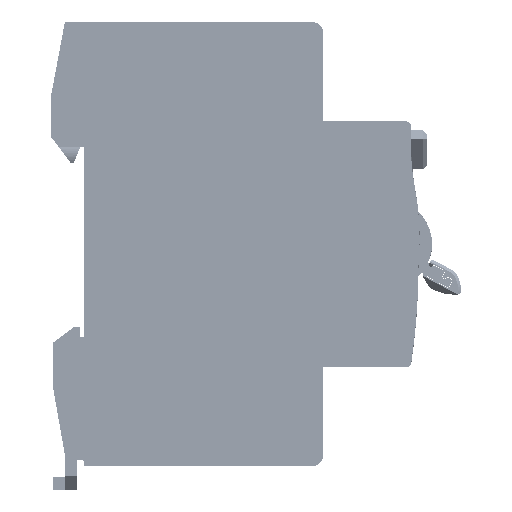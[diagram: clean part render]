
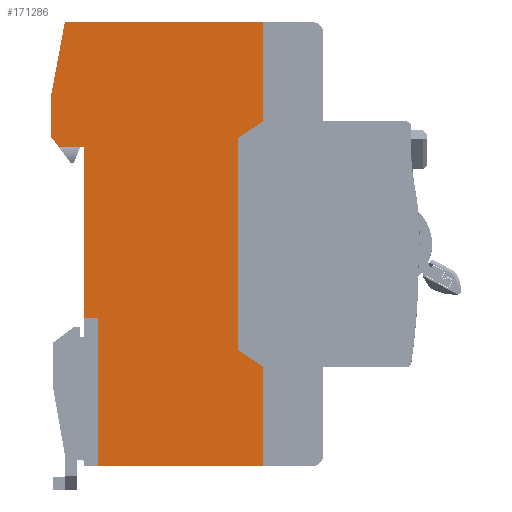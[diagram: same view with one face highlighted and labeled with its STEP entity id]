
A CAD part, front view. The second image highlights one B-rep face of the part: STEP entity #171286.
In plain terms, the highlighted planar face has unit normal (0, -1, 0).
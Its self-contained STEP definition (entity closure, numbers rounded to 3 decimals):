
#2629 = DIRECTION ( 'NONE',  ( 0., 0., 1. ) ) ;
#5162 = EDGE_CURVE ( 'NONE', #143168, #30092, #11968, .T. ) ;
#9931 = CARTESIAN_POINT ( 'NONE',  ( 30.35, 0., 72.142 ) ) ;
#11968 = B_SPLINE_CURVE_WITH_KNOTS ( 'NONE', 3,
 ( #227762, #152024, #31570, #232678 ),
 .UNSPECIFIED., .F., .F.,
 ( 4, 4 ),
 ( 0., 1. ),
 .UNSPECIFIED. ) ;
#12440 = LINE ( 'NONE', #86503, #83152 ) ;
#13041 = CARTESIAN_POINT ( 'NONE',  ( -2.5, 0., 27.25 ) ) ;
#14243 = EDGE_CURVE ( 'NONE', #158311, #143168, #12440, .T. ) ;
#21644 = VECTOR ( 'NONE', #116588, 1000. ) ;
#21744 = CARTESIAN_POINT ( 'NONE',  ( -5.995, 0., 81.5 ) ) ;
#23715 = B_SPLINE_CURVE_WITH_KNOTS ( 'NONE', 3,
 ( #113233, #291255, #122979, #121347 ),
 .UNSPECIFIED., .F., .F.,
 ( 4, 4 ),
 ( 0., 1. ),
 .UNSPECIFIED. ) ;
#23992 = CARTESIAN_POINT ( 'NONE',  ( -8.5, 0., 0. ) ) ;
#25058 = ORIENTED_EDGE ( 'NONE', *, *, #272704, .T. ) ;
#30092 = VERTEX_POINT ( 'NONE', #87287 ) ;
#30523 = CARTESIAN_POINT ( 'NONE',  ( -8.5, 0., 64.25 ) ) ;
#31570 = CARTESIAN_POINT ( 'NONE',  ( -8.038, 0., 59.767 ) ) ;
#34922 = ORIENTED_EDGE ( 'NONE', *, *, #14243, .F. ) ;
#37473 = DIRECTION ( 'NONE',  ( 0., 0., 1. ) ) ;
#37573 = ORIENTED_EDGE ( 'NONE', *, *, #112544, .F. ) ;
#41920 = ORIENTED_EDGE ( 'NONE', *, *, #211154, .T. ) ;
#47431 = ORIENTED_EDGE ( 'NONE', *, *, #127308, .F. ) ;
#50522 = CARTESIAN_POINT ( 'NONE',  ( 25.85, 0., 40.75 ) ) ;
#62008 = DIRECTION ( 'NONE',  ( 1., 0., 0. ) ) ;
#71009 = VERTEX_POINT ( 'NONE', #170203 ) ;
#71377 = ORIENTED_EDGE ( 'NONE', *, *, #5162, .F. ) ;
#71756 = PLANE ( 'NONE',  #183511 ) ;
#72889 = VERTEX_POINT ( 'NONE', #109918 ) ;
#80354 = VERTEX_POINT ( 'NONE', #264672 ) ;
#80748 = ORIENTED_EDGE ( 'NONE', *, *, #280747, .F. ) ;
#83152 = VECTOR ( 'NONE', #164100, 1000. ) ;
#84630 = CARTESIAN_POINT ( 'NONE',  ( 0., 0., 40.75 ) ) ;
#84823 = LINE ( 'NONE', #30523, #96394 ) ;
#86503 = CARTESIAN_POINT ( 'NONE',  ( -4.807, 0., 58.55 ) ) ;
#87287 = CARTESIAN_POINT ( 'NONE',  ( -8.5, 0., 60.375 ) ) ;
#89877 = B_SPLINE_CURVE_WITH_KNOTS ( 'NONE', 3,
 ( #323416, #247485, #298678, #21744 ),
 .UNSPECIFIED., .F., .F.,
 ( 4, 4 ),
 ( 0., 1. ),
 .UNSPECIFIED. ) ;
#96394 = VECTOR ( 'NONE', #2629, 1000. ) ;
#99759 = DIRECTION ( 'NONE',  ( 0., -1., 0. ) ) ;
#101684 = CARTESIAN_POINT ( 'NONE',  ( -8.5, 0., 68.125 ) ) ;
#104020 = CARTESIAN_POINT ( 'NONE',  ( 30.35, 0., 63.25 ) ) ;
#105008 = CARTESIAN_POINT ( 'NONE',  ( 12.177, 0., 81.5 ) ) ;
#109918 = CARTESIAN_POINT ( 'NONE',  ( 30.35, 0., 0. ) ) ;
#112544 = EDGE_CURVE ( 'NONE', #153382, #158311, #156323, .T. ) ;
#112852 = VECTOR ( 'NONE', #37473, 1000. ) ;
#112987 = EDGE_CURVE ( 'NONE', #224099, #182681, #89877, .T. ) ;
#113233 = CARTESIAN_POINT ( 'NONE',  ( 30.35, 0., 18.25 ) ) ;
#116588 = DIRECTION ( 'NONE',  ( 1., 0., 0. ) ) ;
#119539 = CARTESIAN_POINT ( 'NONE',  ( 30.35, 0., 81.5 ) ) ;
#121347 = CARTESIAN_POINT ( 'NONE',  ( 25.85, 0., 21.25 ) ) ;
#122979 = CARTESIAN_POINT ( 'NONE',  ( 27.35, 0., 20.25 ) ) ;
#127308 = EDGE_CURVE ( 'NONE', #144518, #325878, #260355, .T. ) ;
#135256 = CARTESIAN_POINT ( 'NONE',  ( -7.113, 0., 58.55 ) ) ;
#135662 = CARTESIAN_POINT ( 'NONE',  ( 13.925, 0., 0. ) ) ;
#143003 = LINE ( 'NONE', #241864, #21644 ) ;
#143168 = VERTEX_POINT ( 'NONE', #135256 ) ;
#143973 = CARTESIAN_POINT ( 'NONE',  ( 0., 0., 0. ) ) ;
#144518 = VERTEX_POINT ( 'NONE', #119539 ) ;
#146007 = VERTEX_POINT ( 'NONE', #264195 ) ;
#147718 = DIRECTION ( 'NONE',  ( 1., 0., 0. ) ) ;
#152024 = CARTESIAN_POINT ( 'NONE',  ( -7.575, 0., 59.158 ) ) ;
#152633 = B_SPLINE_CURVE_WITH_KNOTS ( 'NONE', 3,
 ( #159992, #235713, #234092, #229183 ),
 .UNSPECIFIED., .F., .F.,
 ( 4, 4 ),
 ( 0., 1. ),
 .UNSPECIFIED. ) ;
#153382 = VERTEX_POINT ( 'NONE', #13041 ) ;
#154349 = VECTOR ( 'NONE', #234604, 1000. ) ;
#156323 = LINE ( 'NONE', #162861, #112852 ) ;
#158311 = VERTEX_POINT ( 'NONE', #314920 ) ;
#159992 = CARTESIAN_POINT ( 'NONE',  ( 25.85, 0., 60.25 ) ) ;
#162861 = CARTESIAN_POINT ( 'NONE',  ( -2.5, 0., 29.275 ) ) ;
#164100 = DIRECTION ( 'NONE',  ( -1., 0., 0. ) ) ;
#169280 = EDGE_CURVE ( 'NONE', #80354, #322364, #261000, .T. ) ;
#170203 = CARTESIAN_POINT ( 'NONE',  ( 25.85, 0., 60.25 ) ) ;
#171286 = ADVANCED_FACE ( 'NONE', ( #296088 ), #71756, .T. ) ;
#175917 = LINE ( 'NONE', #50522, #286976 ) ;
#182037 = DIRECTION ( 'NONE',  ( 0., 0., -1. ) ) ;
#182492 = DIRECTION ( 'NONE',  ( 0., 0., -1. ) ) ;
#182681 = VERTEX_POINT ( 'NONE', #272809 ) ;
#183511 = AXIS2_PLACEMENT_3D ( 'NONE', #23992, #99759, #147718 ) ;
#184111 = LINE ( 'NONE', #263100, #209576 ) ;
#184666 = ORIENTED_EDGE ( 'NONE', *, *, #278626, .T. ) ;
#187865 = ORIENTED_EDGE ( 'NONE', *, *, #215246, .F. ) ;
#204141 = CARTESIAN_POINT ( 'NONE',  ( 30.35, 0., 18.25 ) ) ;
#209576 = VECTOR ( 'NONE', #182492, 1000. ) ;
#211154 = EDGE_CURVE ( 'NONE', #71009, #325878, #152633, .T. ) ;
#212040 = LINE ( 'NONE', #105008, #318527 ) ;
#215246 = EDGE_CURVE ( 'NONE', #182681, #144518, #212040, .T. ) ;
#220103 = EDGE_CURVE ( 'NONE', #312486, #146007, #23715, .T. ) ;
#221835 = ORIENTED_EDGE ( 'NONE', *, *, #220103, .T. ) ;
#224099 = VERTEX_POINT ( 'NONE', #101684 ) ;
#227762 = CARTESIAN_POINT ( 'NONE',  ( -7.113, 0., 58.55 ) ) ;
#229183 = CARTESIAN_POINT ( 'NONE',  ( 30.35, 0., 63.25 ) ) ;
#232678 = CARTESIAN_POINT ( 'NONE',  ( -8.5, 0., 60.375 ) ) ;
#234092 = CARTESIAN_POINT ( 'NONE',  ( 28.85, 0., 62.25 ) ) ;
#234604 = DIRECTION ( 'NONE',  ( -1., 0., 0. ) ) ;
#235713 = CARTESIAN_POINT ( 'NONE',  ( 27.35, 0., 61.25 ) ) ;
#237859 = LINE ( 'NONE', #135662, #154349 ) ;
#241864 = CARTESIAN_POINT ( 'NONE',  ( 10.925, 0., 27.25 ) ) ;
#244145 = ORIENTED_EDGE ( 'NONE', *, *, #263289, .F. ) ;
#247485 = CARTESIAN_POINT ( 'NONE',  ( -7.665, 0., 72.583 ) ) ;
#260355 = LINE ( 'NONE', #9931, #272255 ) ;
#261000 = LINE ( 'NONE', #84630, #298113 ) ;
#263100 = CARTESIAN_POINT ( 'NONE',  ( 30.35, 0., 9.358 ) ) ;
#263289 = EDGE_CURVE ( 'NONE', #312486, #72889, #184111, .T. ) ;
#264195 = CARTESIAN_POINT ( 'NONE',  ( 25.85, 0., 21.25 ) ) ;
#264672 = CARTESIAN_POINT ( 'NONE',  ( 0., 0., 27.25 ) ) ;
#264922 = EDGE_LOOP ( 'NONE', ( #41920, #47431, #187865, #294900, #304166, #71377, #34922, #37573, #184666, #281111, #80748, #244145, #221835, #25058 ) ) ;
#272255 = VECTOR ( 'NONE', #314777, 1000. ) ;
#272704 = EDGE_CURVE ( 'NONE', #146007, #71009, #175917, .T. ) ;
#272809 = CARTESIAN_POINT ( 'NONE',  ( -5.995, 0., 81.5 ) ) ;
#278626 = EDGE_CURVE ( 'NONE', #153382, #80354, #143003, .T. ) ;
#280747 = EDGE_CURVE ( 'NONE', #72889, #322364, #237859, .T. ) ;
#281111 = ORIENTED_EDGE ( 'NONE', *, *, #169280, .T. ) ;
#286976 = VECTOR ( 'NONE', #324341, 1000. ) ;
#291255 = CARTESIAN_POINT ( 'NONE',  ( 28.85, 0., 19.25 ) ) ;
#294900 = ORIENTED_EDGE ( 'NONE', *, *, #112987, .F. ) ;
#296088 = FACE_OUTER_BOUND ( 'NONE', #264922, .T. ) ;
#297214 = EDGE_CURVE ( 'NONE', #30092, #224099, #84823, .T. ) ;
#298113 = VECTOR ( 'NONE', #182037, 1000. ) ;
#298678 = CARTESIAN_POINT ( 'NONE',  ( -6.83, 0., 77.042 ) ) ;
#304166 = ORIENTED_EDGE ( 'NONE', *, *, #297214, .F. ) ;
#312486 = VERTEX_POINT ( 'NONE', #204141 ) ;
#314777 = DIRECTION ( 'NONE',  ( 0., 0., -1. ) ) ;
#314920 = CARTESIAN_POINT ( 'NONE',  ( -2.5, 0., 58.55 ) ) ;
#318527 = VECTOR ( 'NONE', #62008, 1000. ) ;
#322364 = VERTEX_POINT ( 'NONE', #143973 ) ;
#323416 = CARTESIAN_POINT ( 'NONE',  ( -8.5, 0., 68.125 ) ) ;
#324341 = DIRECTION ( 'NONE',  ( 0., 0., 1. ) ) ;
#325878 = VERTEX_POINT ( 'NONE', #104020 ) ;
